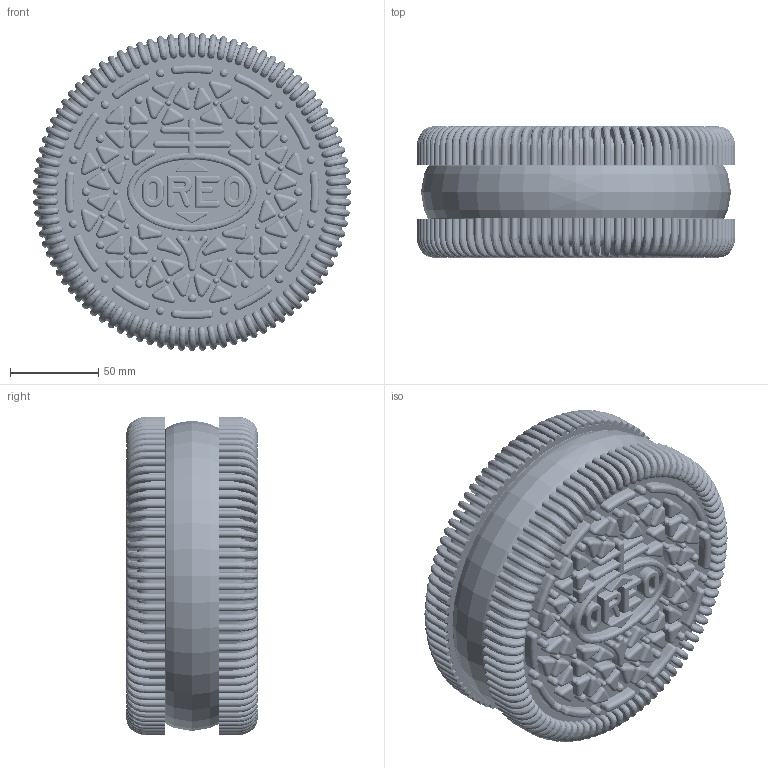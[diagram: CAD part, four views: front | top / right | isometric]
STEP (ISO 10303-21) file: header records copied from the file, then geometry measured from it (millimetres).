
FILE_DESCRIPTION(/* description */ (''),/* implementation_level */ '2;1');
FILE_NAME(/* name */ 'C:\IV2022WorkFolder\Designs\Bob\Oreo\Publish\OREO_180.stp',/* time_stamp */ '2023-01-06T13:31:33-06:00',/* author */ ('dotwibo2'),/* organization */ (''),/* preprocessor_version */ 'ST-DEVELOPER v18.1',/* originating_system */ 'Autodesk Inventor 2022',/* authorisation */ '');
FILE_SCHEMA (('CONFIG_CONTROL_DESIGN'));
Length unit declared in the file: millimetre
Products named in the file (4): OREO; COOKIE 180; outer_filling; inner_filling
Assembly tree (4 placements, depth 2):
  OREO
    COOKIE 180  x2
    outer_filling
    inner_filling
Bounding box: 180 x 74.2 x 180 mm (x, y, z)
Volume: 1048277.1 mm3; surface area: 374485 mm2
Topology: 4 solids, 4 shells, 4490 faces, 11255 edges, 7015 vertices
Faces by surface type: cylinder 1855, plane 1240, bspline 546, sphere 468, torus 376, cone 5
Full cylindrical faces by diameter (mm): 3.2 x40, 4.8 x48, 144 x1, 150.75 x2, 151.95 x2, 159.55 x3, 160.75 x3, 166 x2, 167.4 x2
Entity records: 84845 total; most frequent: CARTESIAN_POINT 29029, DIRECTION 11873, ORIENTED_EDGE 11656, EDGE_CURVE 5828, AXIS2_PLACEMENT_3D 4539, VERTEX_POINT 3653, LINE 2795, VECTOR 2795
